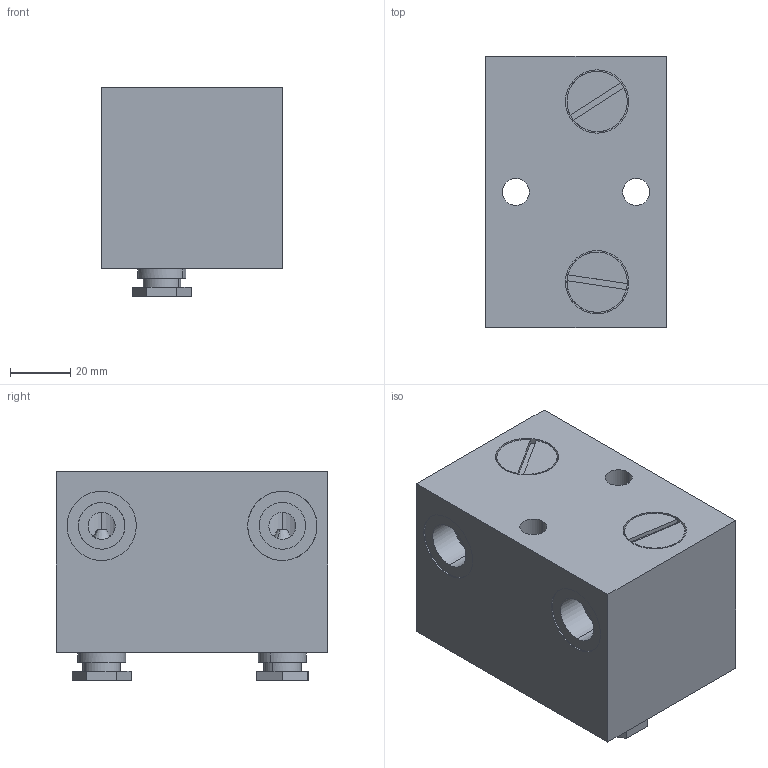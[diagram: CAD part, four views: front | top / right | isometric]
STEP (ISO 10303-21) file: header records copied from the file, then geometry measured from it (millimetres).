
FILE_DESCRIPTION(('CATIA V5 STEP Exchange'),'2;1');
FILE_NAME('C:\Users\Raffaele\Desktop\3D X SITO CF\10063\10063.stp','2019-07-09T08:28:28+00:00',('none'),('none'),'CATIA Version 5 Release 20 GA (IN-10)','CATIA V5 STEP AP203','none');
FILE_SCHEMA(('CONFIG_CONTROL_DESIGN'));
Length unit declared in the file: millimetre
Products named in the file (1): 10063
Bounding box: 60 x 90 x 69.3 mm (x, y, z)
Volume: 289235.2 mm3; surface area: 47214.3 mm2
Topology: 1 solids, 1 shells, 188 faces, 446 edges, 296 vertices
Faces by surface type: cylinder 98, plane 70, cone 20
Entity records: 6616 total; most frequent: CARTESIAN_POINT 2383, ORIENTED_EDGE 892, DIRECTION 722, EDGE_CURVE 446, AXIS2_PLACEMENT_3D 347, VERTEX_POINT 296, EDGE_LOOP 236, VECTOR 188
